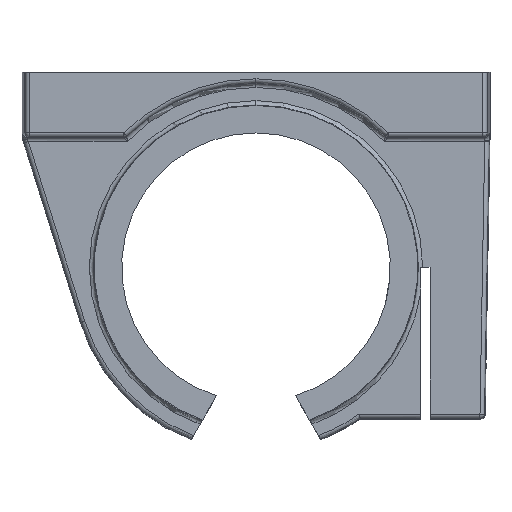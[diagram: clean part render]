
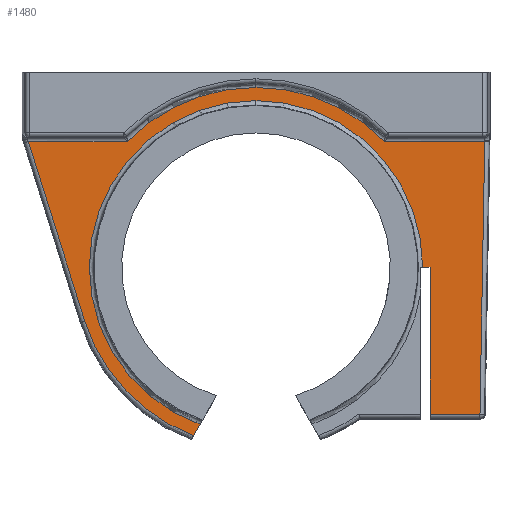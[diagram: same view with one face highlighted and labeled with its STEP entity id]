
A CAD part, front view. The second image highlights one B-rep face of the part: STEP entity #1480.
In plain terms, the highlighted planar face has unit normal (0, -1, 0).
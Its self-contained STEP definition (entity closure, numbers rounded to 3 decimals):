
#21 = CARTESIAN_POINT ( 'NONE',  ( 52.773, -13., -10.5 ) ) ;
#96 = DIRECTION ( 'NONE',  ( 0., 1., 0. ) ) ;
#124 = EDGE_CURVE ( 'NONE', #3617, #923, #2105, .T. ) ;
#325 = DIRECTION ( 'NONE',  ( 0., 0., 1. ) ) ;
#363 = ORIENTED_EDGE ( 'NONE', *, *, #606, .T. ) ;
#516 = ORIENTED_EDGE ( 'NONE', *, *, #3962, .T. ) ;
#537 = VERTEX_POINT ( 'NONE', #3314 ) ;
#575 = EDGE_LOOP ( 'NONE', ( #764, #785, #3803, #2233, #516, #2772, #3876, #1510, #3698, #2484, #652, #2786, #363 ) ) ;
#606 = EDGE_CURVE ( 'NONE', #3565, #4512, #4019, .T. ) ;
#652 = ORIENTED_EDGE ( 'NONE', *, *, #2936, .T. ) ;
#673 = LINE ( 'NONE', #3645, #1895 ) ;
#679 = CARTESIAN_POINT ( 'NONE',  ( 0., -13., -1.035 ) ) ;
#723 = CARTESIAN_POINT ( 'NONE',  ( 0., -13., -39.5 ) ) ;
#740 = VECTOR ( 'NONE', #1621, 1000. ) ;
#764 = ORIENTED_EDGE ( 'NONE', *, *, #1826, .F. ) ;
#785 = ORIENTED_EDGE ( 'NONE', *, *, #4670, .T. ) ;
#859 = EDGE_CURVE ( 'NONE', #1761, #4763, #3774, .T. ) ;
#923 = VERTEX_POINT ( 'NONE', #3808 ) ;
#951 = VECTOR ( 'NONE', #4450, 1000. ) ;
#966 = DIRECTION ( 'NONE',  ( 1., 0., 0. ) ) ;
#981 = CARTESIAN_POINT ( 'NONE',  ( 30.104, -13., -10.5 ) ) ;
#1029 = LINE ( 'NONE', #4379, #4764 ) ;
#1084 = CARTESIAN_POINT ( 'NONE',  ( 0., -13., -39.5 ) ) ;
#1189 = CARTESIAN_POINT ( 'NONE',  ( -14.398, -13., -78.311 ) ) ;
#1306 = VERTEX_POINT ( 'NONE', #1627 ) ;
#1381 = CARTESIAN_POINT ( 'NONE',  ( 38.465, -13., -39.5 ) ) ;
#1425 = EDGE_CURVE ( 'NONE', #3460, #1930, #4285, .T. ) ;
#1480 = ADVANCED_FACE ( 'NONE', ( #1871 ), #2219, .F. ) ;
#1510 = ORIENTED_EDGE ( 'NONE', *, *, #1931, .T. ) ;
#1522 = VECTOR ( 'NONE', #4723, 1000. ) ;
#1534 = DIRECTION ( 'NONE',  ( 0., 0., 1. ) ) ;
#1589 = CIRCLE ( 'NONE', #4384, 38.465 ) ;
#1621 = DIRECTION ( 'NONE',  ( 0.5, 0., 0.866 ) ) ;
#1627 = CARTESIAN_POINT ( 'NONE',  ( 40.15, -13., -73.395 ) ) ;
#1761 = VERTEX_POINT ( 'NONE', #4270 ) ;
#1798 = VECTOR ( 'NONE', #2625, 1000. ) ;
#1826 = EDGE_CURVE ( 'NONE', #1306, #4512, #1029, .T. ) ;
#1871 = FACE_OUTER_BOUND ( 'NONE', #575, .T. ) ;
#1895 = VECTOR ( 'NONE', #966, 1000. ) ;
#1930 = VERTEX_POINT ( 'NONE', #1189 ) ;
#1931 = EDGE_CURVE ( 'NONE', #2704, #3460, #3381, .T. ) ;
#1968 = CARTESIAN_POINT ( 'NONE',  ( -39.485, -13., -51.93 ) ) ;
#2105 = CIRCLE ( 'NONE', #3500, 41.5 ) ;
#2181 = DIRECTION ( 'NONE',  ( 0., 1., 0. ) ) ;
#2219 = PLANE ( 'NONE',  #2824 ) ;
#2232 = DIRECTION ( 'NONE',  ( 0., -1., 0. ) ) ;
#2233 = ORIENTED_EDGE ( 'NONE', *, *, #3508, .T. ) ;
#2254 = DIRECTION ( 'NONE',  ( 0., -1., 0. ) ) ;
#2287 = CARTESIAN_POINT ( 'NONE',  ( 0., -13., -39.5 ) ) ;
#2315 = CARTESIAN_POINT ( 'NONE',  ( 40.15, -13., -39.5 ) ) ;
#2329 = VECTOR ( 'NONE', #2553, 1000. ) ;
#2340 = VERTEX_POINT ( 'NONE', #3412 ) ;
#2484 = ORIENTED_EDGE ( 'NONE', *, *, #4444, .T. ) ;
#2537 = CARTESIAN_POINT ( 'NONE',  ( 0., -13., -39.5 ) ) ;
#2553 = DIRECTION ( 'NONE',  ( 1., 0., 0. ) ) ;
#2560 = CARTESIAN_POINT ( 'NONE',  ( -52.527, -13., -10.5 ) ) ;
#2605 = LINE ( 'NONE', #3036, #4539 ) ;
#2625 = DIRECTION ( 'NONE',  ( 0.017, 0., 1. ) ) ;
#2704 = VERTEX_POINT ( 'NONE', #2560 ) ;
#2721 = EDGE_CURVE ( 'NONE', #3838, #3565, #1589, .T. ) ;
#2772 = ORIENTED_EDGE ( 'NONE', *, *, #124, .T. ) ;
#2786 = ORIENTED_EDGE ( 'NONE', *, *, #2721, .T. ) ;
#2824 = AXIS2_PLACEMENT_3D ( 'NONE', #2287, #96, #3753 ) ;
#2936 = EDGE_CURVE ( 'NONE', #537, #3838, #4077, .T. ) ;
#3036 = CARTESIAN_POINT ( 'NONE',  ( -53.763, -13., -10.5 ) ) ;
#3047 = AXIS2_PLACEMENT_3D ( 'NONE', #1084, #4045, #3948 ) ;
#3070 = AXIS2_PLACEMENT_3D ( 'NONE', #4129, #2254, #3747 ) ;
#3314 = CARTESIAN_POINT ( 'NONE',  ( -12.91, -13., -75.734 ) ) ;
#3366 = DIRECTION ( 'NONE',  ( 0., 1., 0. ) ) ;
#3381 = LINE ( 'NONE', #3702, #951 ) ;
#3412 = CARTESIAN_POINT ( 'NONE',  ( 29.686, -13., -10.5 ) ) ;
#3460 = VERTEX_POINT ( 'NONE', #1968 ) ;
#3500 = AXIS2_PLACEMENT_3D ( 'NONE', #4441, #2232, #3984 ) ;
#3508 = EDGE_CURVE ( 'NONE', #4763, #2340, #4698, .T. ) ;
#3565 = VERTEX_POINT ( 'NONE', #1381 ) ;
#3617 = VERTEX_POINT ( 'NONE', #4480 ) ;
#3645 = CARTESIAN_POINT ( 'NONE',  ( 52.64, -13., -73.395 ) ) ;
#3698 = ORIENTED_EDGE ( 'NONE', *, *, #1425, .T. ) ;
#3702 = CARTESIAN_POINT ( 'NONE',  ( -39.485, -13., -51.93 ) ) ;
#3707 = EDGE_CURVE ( 'NONE', #923, #2704, #2605, .T. ) ;
#3747 = DIRECTION ( 'NONE',  ( 0., 0., 1. ) ) ;
#3753 = DIRECTION ( 'NONE',  ( 0., 0., 1. ) ) ;
#3774 = LINE ( 'NONE', #4495, #1798 ) ;
#3779 = CARTESIAN_POINT ( 'NONE',  ( 0., -13., -39.5 ) ) ;
#3803 = ORIENTED_EDGE ( 'NONE', *, *, #859, .T. ) ;
#3808 = CARTESIAN_POINT ( 'NONE',  ( -29.686, -13., -10.5 ) ) ;
#3838 = VERTEX_POINT ( 'NONE', #679 ) ;
#3876 = ORIENTED_EDGE ( 'NONE', *, *, #3707, .T. ) ;
#3948 = DIRECTION ( 'NONE',  ( 0., 0., 1. ) ) ;
#3962 = EDGE_CURVE ( 'NONE', #2340, #3617, #4229, .T. ) ;
#3984 = DIRECTION ( 'NONE',  ( 0., 0., 1. ) ) ;
#4019 = LINE ( 'NONE', #3779, #2329 ) ;
#4045 = DIRECTION ( 'NONE',  ( 0., -1., 0. ) ) ;
#4077 = CIRCLE ( 'NONE', #4695, 38.465 ) ;
#4129 = CARTESIAN_POINT ( 'NONE',  ( 0., -13., -39.5 ) ) ;
#4229 = CIRCLE ( 'NONE', #3070, 41.5 ) ;
#4270 = CARTESIAN_POINT ( 'NONE',  ( 51.675, -13., -73.395 ) ) ;
#4285 = CIRCLE ( 'NONE', #3047, 41.395 ) ;
#4379 = CARTESIAN_POINT ( 'NONE',  ( 40.15, -13., -39.5 ) ) ;
#4384 = AXIS2_PLACEMENT_3D ( 'NONE', #2537, #3366, #325 ) ;
#4441 = CARTESIAN_POINT ( 'NONE',  ( 0., -13., -39.5 ) ) ;
#4444 = EDGE_CURVE ( 'NONE', #1930, #537, #4544, .T. ) ;
#4450 = DIRECTION ( 'NONE',  ( 0.3, 0., -0.954 ) ) ;
#4480 = CARTESIAN_POINT ( 'NONE',  ( 0., -13., 2. ) ) ;
#4495 = CARTESIAN_POINT ( 'NONE',  ( 52.781, -13., -10.054 ) ) ;
#4496 = DIRECTION ( 'NONE',  ( -1., 0., 0. ) ) ;
#4512 = VERTEX_POINT ( 'NONE', #2315 ) ;
#4539 = VECTOR ( 'NONE', #4496, 1000. ) ;
#4544 = LINE ( 'NONE', #4565, #740 ) ;
#4565 = CARTESIAN_POINT ( 'NONE',  ( 6.007, -13., -42.968 ) ) ;
#4670 = EDGE_CURVE ( 'NONE', #1306, #1761, #673, .T. ) ;
#4695 = AXIS2_PLACEMENT_3D ( 'NONE', #723, #2181, #1534 ) ;
#4698 = LINE ( 'NONE', #981, #1522 ) ;
#4723 = DIRECTION ( 'NONE',  ( -1., 0., 0. ) ) ;
#4741 = DIRECTION ( 'NONE',  ( 0., 0., 1. ) ) ;
#4763 = VERTEX_POINT ( 'NONE', #21 ) ;
#4764 = VECTOR ( 'NONE', #4741, 1000. ) ;
